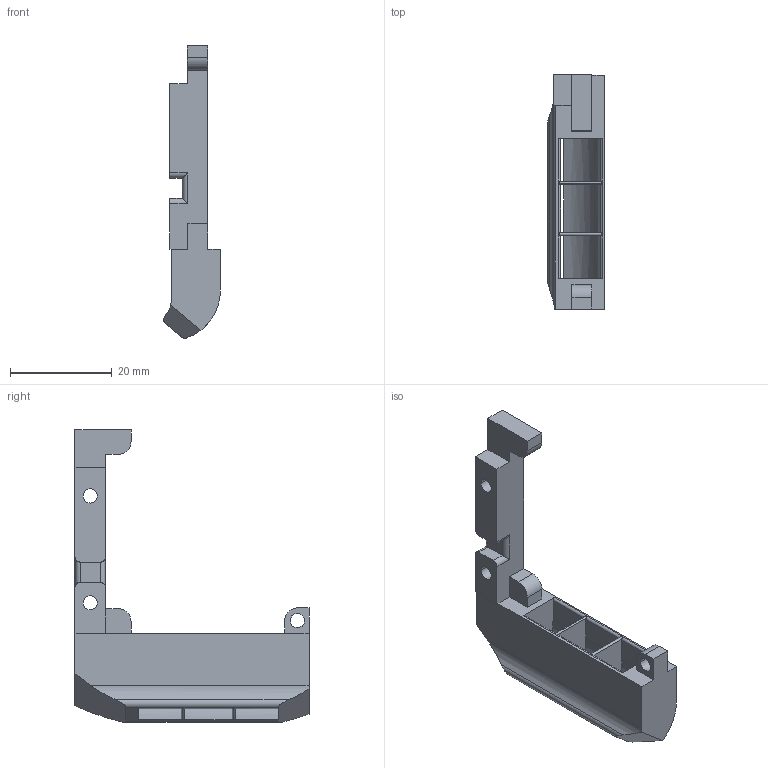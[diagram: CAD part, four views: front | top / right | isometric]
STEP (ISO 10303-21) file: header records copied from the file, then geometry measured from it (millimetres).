
FILE_DESCRIPTION(('CATIA V5 STEP Exchange'),'2;1');
FILE_NAME('C:\Users\Bruno-Win\Desktop\V2.1 Head\HYPERCUBE-EVO-0009_NGEN_V2_40L.stp','2021-03-26T07:38:20+00:00',('none'),('none'),'CATIA Version 5-6 Release 2017','CATIA V5 STEP AP203','none');
FILE_SCHEMA(('CONFIG_CONTROL_DESIGN'));
Length unit declared in the file: millimetre
Products named in the file (1): HYPERCUBE-EVO-0009_NGEN_V2_40L.1
Bounding box: 11.19 x 46 x 57.48 mm (x, y, z)
Volume: 5433.7 mm3; surface area: 5309.6 mm2
Topology: 1 solids, 1 shells, 83 faces, 247 edges, 160 vertices
Faces by surface type: plane 42, cylinder 41
Entity records: 2857 total; most frequent: CARTESIAN_POINT 712, ORIENTED_EDGE 494, DIRECTION 341, EDGE_CURVE 247, VERTEX_POINT 160, VECTOR 156, LINE 156, AXIS2_PLACEMENT_3D 119
